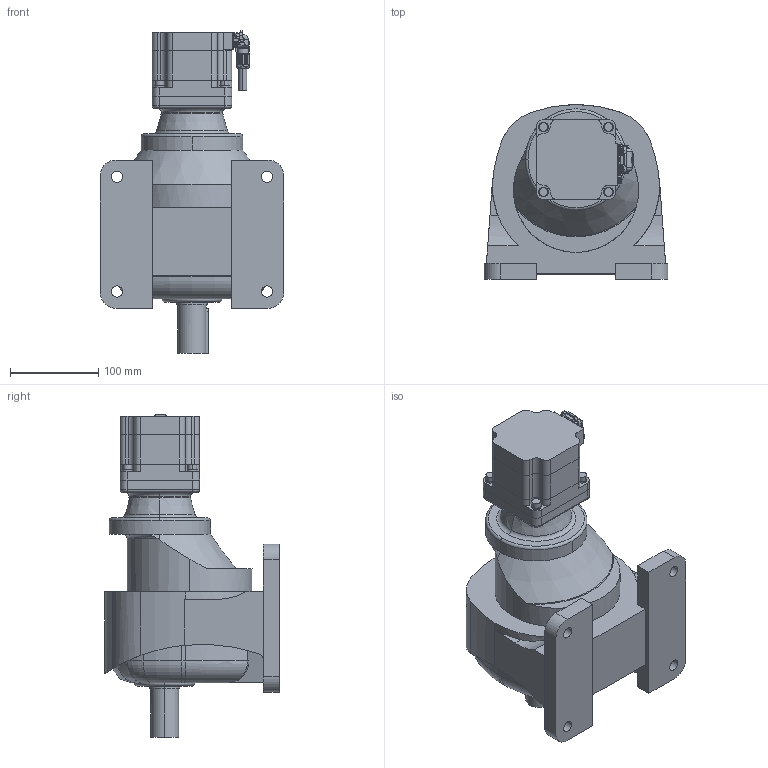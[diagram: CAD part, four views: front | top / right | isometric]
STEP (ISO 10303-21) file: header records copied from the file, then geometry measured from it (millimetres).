
FILE_DESCRIPTION (( 'STEP AP203' ), '1' );
FILE_NAME ('A1655.step', '2017-09-12T07:11:28', ( 'om' ), ( '' ), 'SwSTEP 2.0', 'SolidWorks 2014', '' );
FILE_SCHEMA (( 'CONFIG_CONTROL_DESIGN' ));
Length unit declared in the file: millimetre
Products named in the file (1): A1655
Bounding box: 208 x 198 x 365.5 mm (x, y, z)
Volume: 5276802.9 mm3; surface area: 279225.1 mm2
Topology: 3 solids, 10 shells, 1219 faces, 3184 edges, 2014 vertices
Faces by surface type: plane 594, cylinder 464, torus 71, bspline 61, cone 25, sphere 4
Entity records: 45696 total; most frequent: CARTESIAN_POINT 16502, ORIENTED_EDGE 6344, DIRECTION 5731, EDGE_CURVE 3172, VERTEX_POINT 2014, AXIS2_PLACEMENT_3D 1982, LINE 1767, VECTOR 1767
